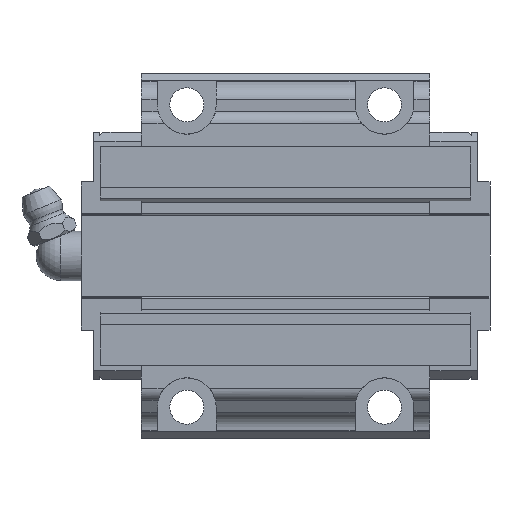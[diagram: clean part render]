
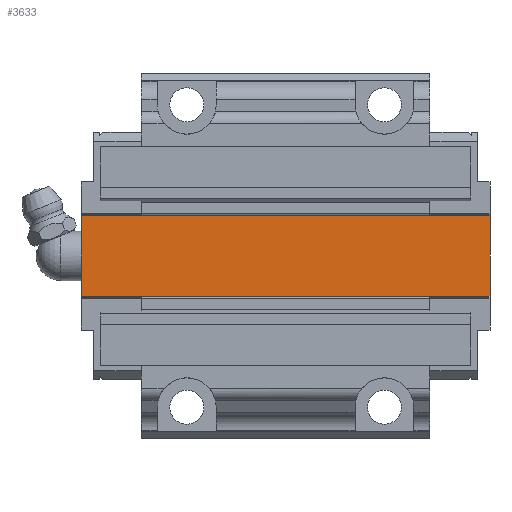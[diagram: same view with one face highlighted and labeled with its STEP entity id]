
A CAD part, front view. The second image highlights one B-rep face of the part: STEP entity #3633.
In plain terms, the highlighted planar face has unit normal (0, -1, 0).
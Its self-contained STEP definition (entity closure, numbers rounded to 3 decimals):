
#386=LINE('',#5995,#778);
#401=LINE('',#6038,#793);
#416=LINE('',#6074,#808);
#417=LINE('',#6076,#809);
#778=VECTOR('',#4779,1000.);
#793=VECTOR('',#4818,1000.);
#808=VECTOR('',#4861,1000.);
#809=VECTOR('',#4864,1000.);
#945=PLANE('',#3938);
#2031=ORIENTED_EDGE('',*,*,#2573,.F.);
#2032=ORIENTED_EDGE('',*,*,#2613,.F.);
#2033=ORIENTED_EDGE('',*,*,#2595,.T.);
#2034=ORIENTED_EDGE('',*,*,#2614,.T.);
#2573=EDGE_CURVE('',#2946,#2947,#386,.T.);
#2595=EDGE_CURVE('',#2963,#2962,#401,.T.);
#2613=EDGE_CURVE('',#2963,#2946,#416,.T.);
#2614=EDGE_CURVE('',#2962,#2947,#417,.T.);
#2946=VERTEX_POINT('',#5994);
#2947=VERTEX_POINT('',#5996);
#2962=VERTEX_POINT('',#6037);
#2963=VERTEX_POINT('',#6039);
#3201=EDGE_LOOP('',(#2031,#2032,#2033,#2034));
#3422=FACE_BOUND('',#3201,.T.);
#3633=ADVANCED_FACE('',(#3422),#945,.T.);
#3938=AXIS2_PLACEMENT_3D('',#6075,#4862,#4863);
#4779=DIRECTION('',(0.,0.,1.));
#4818=DIRECTION('',(0.,0.,1.));
#4861=DIRECTION('',(-1.,0.,0.));
#4862=DIRECTION('',(0.,-1.,0.));
#4863=DIRECTION('',(0.,0.,-1.));
#4864=DIRECTION('',(-1.,0.,0.));
#5994=CARTESIAN_POINT('',(-33.1,9.5,-6.503));
#5995=CARTESIAN_POINT('',(-33.1,9.5,-6.503));
#5996=CARTESIAN_POINT('',(-33.1,9.5,6.503));
#6037=CARTESIAN_POINT('',(33.1,9.5,6.503));
#6038=CARTESIAN_POINT('',(33.1,9.5,-6.503));
#6039=CARTESIAN_POINT('',(33.1,9.5,-6.503));
#6074=CARTESIAN_POINT('',(33.1,9.5,-6.503));
#6075=CARTESIAN_POINT('',(33.1,9.5,-6.503));
#6076=CARTESIAN_POINT('',(33.1,9.5,6.503));
